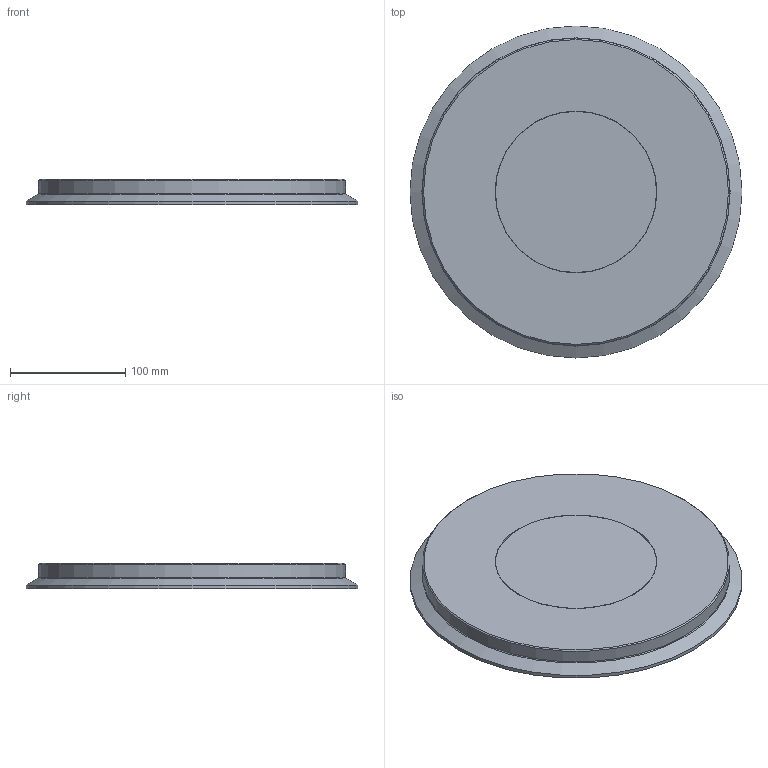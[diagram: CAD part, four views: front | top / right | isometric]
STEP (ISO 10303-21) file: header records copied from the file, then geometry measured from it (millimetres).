
FILE_DESCRIPTION(/* description */ ('ACI Typ 328 DN 250 PN 6'),/* implementation_level */ '2;1');
FILE_NAME(/* name */ 'C:\Users\willms\Desktop\ACI-328-250-6.stp',/* time_stamp */ '2020-09-01T16:26:34+02:00',/* author */ ('götz'),/* organization */ ('ACI Industriearmaturen GmbH info@aci24.com www.aci24.com'),/* preprocessor_version */ 'ST-DEVELOPER v16.1',/* originating_system */ 'Autodesk Inventor 2016',/* authorisation */ 'ACI Industriearmaturen GmbH info@aci24.com www.aci24.com');
FILE_SCHEMA (('CONFIG_CONTROL_DESIGN'));
Length unit declared in the file: centimetre
Products named in the file (1): ACI-328-250-6
Bounding box: 287.5 x 287.5 x 22 mm (x, y, z)
Volume: 1274695.7 mm3; surface area: 163930.2 mm2
Topology: 2 solids, 2 shells, 15 faces, 23 edges, 14 vertices
Faces by surface type: plane 6, cylinder 4, cone 4, torus 1
Full cylindrical faces by diameter (mm): 139.5 x1, 140 x1, 266 x1, 287.5 x1
Entity records: 350 total; most frequent: DIRECTION 60, CARTESIAN_POINT 44, AXIS2_PLACEMENT_3D 30, EDGE_LOOP 28, ORIENTED_EDGE 28, STYLED_ITEM 17, FACE_OUTER_BOUND 15, ADVANCED_FACE 15
